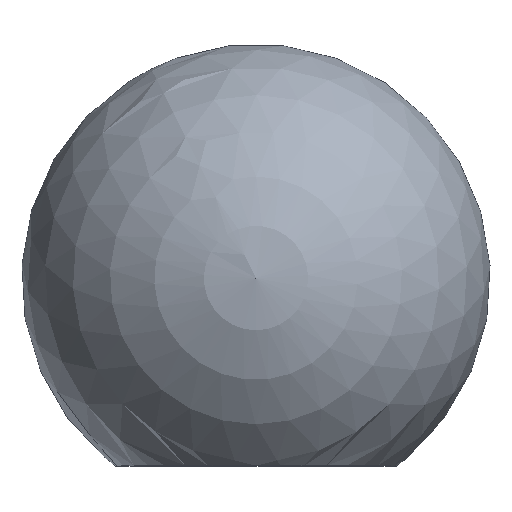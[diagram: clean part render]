
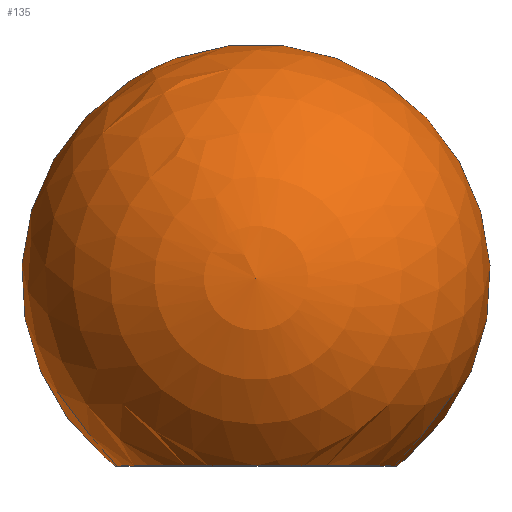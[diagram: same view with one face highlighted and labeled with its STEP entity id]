
A CAD part, top view. The second image highlights one B-rep face of the part: STEP entity #135.
In plain terms, the highlighted spherical face has radius 10 mm.
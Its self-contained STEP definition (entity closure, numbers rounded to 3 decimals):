
#2 = DIRECTION ( 'NONE',  ( 1., 0., 0. ) ) ;
#19 = AXIS2_PLACEMENT_3D ( 'NONE', #28, #145, #2 ) ;
#22 = EDGE_CURVE ( 'NONE', #153, #153, #29, .T. ) ;
#24 = AXIS2_PLACEMENT_3D ( 'NONE', #64, #172, #130 ) ;
#28 = CARTESIAN_POINT ( 'NONE',  ( 0., 8., 0. ) ) ;
#29 = CIRCLE ( 'NONE', #24, 6. ) ;
#37 = CARTESIAN_POINT ( 'NONE',  ( 0., 0., -6. ) ) ;
#64 = CARTESIAN_POINT ( 'NONE',  ( 0., 0., 0. ) ) ;
#65 = EDGE_LOOP ( 'NONE', ( #79 ) ) ;
#69 = SPHERICAL_SURFACE ( 'NONE', #19, 10. ) ;
#79 = ORIENTED_EDGE ( 'NONE', *, *, #22, .F. ) ;
#123 = FACE_OUTER_BOUND ( 'NONE', #65, .T. ) ;
#130 = DIRECTION ( 'NONE',  ( 0., 0., -1. ) ) ;
#135 = ADVANCED_FACE ( 'NONE', ( #123 ), #69, .T. ) ;
#145 = DIRECTION ( 'NONE',  ( 0., 0., 1. ) ) ;
#153 = VERTEX_POINT ( 'NONE', #37 ) ;
#172 = DIRECTION ( 'NONE',  ( 0., -1., 0. ) ) ;
